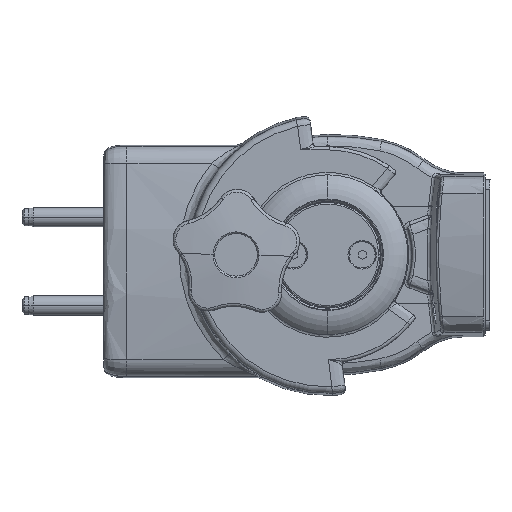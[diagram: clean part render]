
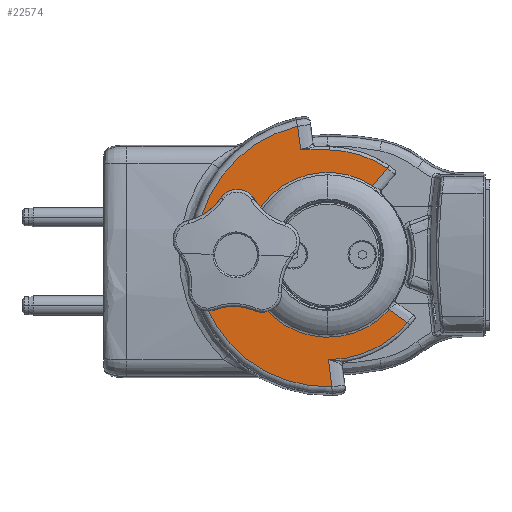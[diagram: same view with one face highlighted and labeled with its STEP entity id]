
A CAD part, left-side view. The second image highlights one B-rep face of the part: STEP entity #22574.
In plain terms, the highlighted planar face has unit normal (-1, 0, 0).
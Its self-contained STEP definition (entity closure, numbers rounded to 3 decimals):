
#155=CARTESIAN_POINT('',(-40.25,28.,0.));
#156=DIRECTION('',(1.,0.,0.));
#157=DIRECTION('',(0.,-1.,0.));
#158=AXIS2_PLACEMENT_3D('',#155,#156,#157);
#164=CARTESIAN_POINT('',(-40.25,28.,0.));
#165=DIRECTION('',(1.,0.,0.));
#166=DIRECTION('',(0.,1.,0.));
#167=AXIS2_PLACEMENT_3D('',#164,#165,#166);
#172=CARTESIAN_POINT('',(-40.25,23.442,7.185));
#173=CARTESIAN_POINT('',(-40.25,23.464,7.214));
#174=CARTESIAN_POINT('',(-40.25,23.508,7.275));
#175=CARTESIAN_POINT('',(-40.25,23.567,7.373));
#176=CARTESIAN_POINT('',(-40.25,23.624,7.485));
#177=CARTESIAN_POINT('',(-40.25,23.66,7.565));
#178=CARTESIAN_POINT('',(-40.25,23.677,7.608));
#183=CARTESIAN_POINT('',(-40.25,23.195,6.954));
#184=CARTESIAN_POINT('',(-40.25,23.219,6.97));
#185=CARTESIAN_POINT('',(-40.25,23.277,7.014));
#186=CARTESIAN_POINT('',(-40.25,23.359,7.088));
#187=CARTESIAN_POINT('',(-40.25,23.415,7.15));
#188=CARTESIAN_POINT('',(-40.25,23.442,7.185));
#193=CARTESIAN_POINT('',(-40.25,28.,0.));
#194=DIRECTION('',(-1.,0.,0.));
#195=DIRECTION('',(0.,-0.569,-0.823));
#196=AXIS2_PLACEMENT_3D('',#193,#194,#195);
#201=CARTESIAN_POINT('',(-40.25,23.441,-7.184));
#202=CARTESIAN_POINT('',(-40.25,23.402,-7.134));
#203=CARTESIAN_POINT('',(-40.25,23.319,-7.047));
#204=CARTESIAN_POINT('',(-40.25,23.234,-6.981));
#205=CARTESIAN_POINT('',(-40.25,23.192,-6.952));
#210=CARTESIAN_POINT('',(-40.25,23.677,-7.608));
#211=CARTESIAN_POINT('',(-40.25,23.662,-7.57));
#212=CARTESIAN_POINT('',(-40.25,23.63,-7.498));
#213=CARTESIAN_POINT('',(-40.25,23.58,-7.398));
#214=CARTESIAN_POINT('',(-40.25,23.521,-7.296));
#215=CARTESIAN_POINT('',(-40.25,23.47,-7.222));
#216=CARTESIAN_POINT('',(-40.25,23.441,-7.184));
#221=CARTESIAN_POINT('',(-40.25,0.,0.));
#222=DIRECTION('',(1.,0.,0.));
#223=DIRECTION('',(0.,-0.762,-0.648));
#224=AXIS2_PLACEMENT_3D('',#221,#222,#223);
#229=CARTESIAN_POINT('',(-40.25,0.,0.));
#230=DIRECTION('',(-1.,0.,0.));
#231=DIRECTION('',(0.,0.228,0.974));
#232=AXIS2_PLACEMENT_3D('',#229,#230,#231);
#237=DIRECTION('',(0.,-1.,-0.017));
#238=VECTOR('',#237,8.827);
#239=CARTESIAN_POINT('',(-40.25,8.267,32.149));
#240=LINE('',#239,#238);
#244=CARTESIAN_POINT('',(-40.25,0.,0.));
#245=DIRECTION('',(1.,0.,0.));
#246=DIRECTION('',(0.,-0.017,1.));
#247=AXIS2_PLACEMENT_3D('',#244,#245,#246);
#1159=CARTESIAN_POINT('',(-40.25,23.837,
-8.033));
#1169=CARTESIAN_POINT('',(-40.25,0.,0.));
#1170=DIRECTION('',(1.,0.,0.));
#1171=DIRECTION('',(0.,-0.745,-0.667));
#1172=AXIS2_PLACEMENT_3D('',#1169,#1170,#1171);
#1260=CARTESIAN_POINT('',(-40.25,-18.18,26.334));
#1312=CARTESIAN_POINT('',(-40.25,-13.755,21.06));
#1317=DIRECTION('',(0.,-0.643,0.766));
#1318=VECTOR('',#1317,6.884);
#1319=CARTESIAN_POINT('',(-40.25,-13.755,21.06));
#1320=LINE('',#1319,#1318);
#3165=CARTESIAN_POINT('',(-40.25,8.267,32.149));
#3170=DIRECTION('',(0.,0.131,0.991));
#3171=VECTOR('',#3170,7.132);
#3172=CARTESIAN_POINT('',(-40.25,8.267,32.149));
#3173=LINE('',#3172,#3171);
#3239=CARTESIAN_POINT('',(-40.25,-1.266,-40.265));
#3244=CARTESIAN_POINT('',(-40.25,9.198,39.22));
#3286=DIRECTION('',(0.,0.131,0.991));
#3287=VECTOR('',#3286,8.337);
#3288=CARTESIAN_POINT('',(-40.25,-1.266,-40.265));
#3289=LINE('',#3288,#3287);
#3729=CARTESIAN_POINT('',(-40.25,-0.178,-32.));
#3793=CARTESIAN_POINT('',(-40.25,-24.377,-20.731));
#3798=DIRECTION('',(0.,0.819,0.574));
#3799=VECTOR('',#3798,6.884);
#3800=CARTESIAN_POINT('',(-40.25,-24.377,-20.731));
#3801=LINE('',#3800,#3799);
#3805=CARTESIAN_POINT('',(-40.25,-18.737,-16.782));
#19631=CARTESIAN_POINT('',(-40.25,23.837,
8.033));
#19636=CARTESIAN_POINT('',(-40.25,0.,0.));
#19637=DIRECTION('',(1.,0.,0.));
#19638=DIRECTION('',(0.,0.948,0.319));
#19639=AXIS2_PLACEMENT_3D('',#19636,#19637,#19638);
#19679=CARTESIAN_POINT('',(-40.25,23.677,7.608));
#19680=CARTESIAN_POINT('',(-40.25,23.696,7.653));
#19681=CARTESIAN_POINT('',(-40.25,23.732,
7.745));
#19682=CARTESIAN_POINT('',(-40.25,23.783,
7.885));
#19683=CARTESIAN_POINT('',(-40.25,23.819,
7.983));
#19684=CARTESIAN_POINT('',(-40.25,23.837,
8.033));
#19809=CARTESIAN_POINT('',(-40.25,23.837,
-8.033));
#19810=CARTESIAN_POINT('',(-40.25,23.827,
-8.004));
#19811=CARTESIAN_POINT('',(-40.25,23.806,
-7.948));
#19812=CARTESIAN_POINT('',(-40.25,23.775,
-7.863));
#19813=CARTESIAN_POINT('',(-40.25,23.744,
-7.778));
#19814=CARTESIAN_POINT('',(-40.25,23.712,
-7.693));
#19815=CARTESIAN_POINT('',(-40.25,23.689,-7.636));
#19816=CARTESIAN_POINT('',(-40.25,23.677,-7.608));
#19932=VERTEX_POINT('',#3239);
#19939=VERTEX_POINT('',#3244);
#20227=CARTESIAN_POINT('',(-40.25,23.3,0.));
#20228=CARTESIAN_POINT('',(-40.25,32.7,0.));
#20229=VERTEX_POINT('',#20227);
#20230=VERTEX_POINT('',#20228);
#20307=CARTESIAN_POINT('',(-40.25,23.193,-6.953));
#20308=CARTESIAN_POINT('',(-40.25,23.201,6.958));
#20309=VERTEX_POINT('',#20307);
#20310=VERTEX_POINT('',#20308);
#22021=VERTEX_POINT('',#201);
#22022=VERTEX_POINT('',#188);
#22072=VERTEX_POINT('',#1312);
#22078=VERTEX_POINT('',#3805);
#22085=VERTEX_POINT('',#19631);
#22086=VERTEX_POINT('',#1159);
#22087=VERTEX_POINT('',#210);
#22088=VERTEX_POINT('',#178);
#22096=VERTEX_POINT('',#3793);
#22099=VERTEX_POINT('',#1260);
#22103=CARTESIAN_POINT('',(-40.25,-0.558,31.995));
#22104=VERTEX_POINT('',#22103);
#22148=VERTEX_POINT('',#3165);
#22149=VERTEX_POINT('',#3729);
#22527=CARTESIAN_POINT('',(-40.25,0.,0.));
#22528=DIRECTION('',(1.,0.,0.));
#22529=DIRECTION('',(0.,0.,-1.));
#22530=AXIS2_PLACEMENT_3D('',#22527,#22528,#22529);
#22531=PLANE('',#22530);
#22533=ORIENTED_EDGE('',*,*,#22532,.F.);
#22535=ORIENTED_EDGE('',*,*,#22534,.F.);
#22537=ORIENTED_EDGE('',*,*,#22536,.F.);
#22539=ORIENTED_EDGE('',*,*,#22538,.F.);
#22541=ORIENTED_EDGE('',*,*,#22540,.F.);
#22543=ORIENTED_EDGE('',*,*,#22542,.F.);
#22545=ORIENTED_EDGE('',*,*,#22544,.F.);
#22547=ORIENTED_EDGE('',*,*,#22546,.F.);
#22549=ORIENTED_EDGE('',*,*,#22548,.F.);
#22551=ORIENTED_EDGE('',*,*,#22550,.F.);
#22553=ORIENTED_EDGE('',*,*,#22552,.T.);
#22555=ORIENTED_EDGE('',*,*,#22554,.F.);
#22557=ORIENTED_EDGE('',*,*,#22556,.F.);
#22559=ORIENTED_EDGE('',*,*,#22558,.F.);
#22561=ORIENTED_EDGE('',*,*,#22560,.T.);
#22563=ORIENTED_EDGE('',*,*,#22562,.T.);
#22565=ORIENTED_EDGE('',*,*,#22564,.F.);
#22566=EDGE_LOOP('',(#22533,#22535,#22537,#22539,#22541,#22543,#22545,#22547,
#22549,#22551,#22553,#22555,#22557,#22559,#22561,#22563,#22565));
#22567=FACE_OUTER_BOUND('',#22566,.F.);
#22569=ORIENTED_EDGE('',*,*,#22568,.F.);
#22571=ORIENTED_EDGE('',*,*,#22570,.F.);
#22572=EDGE_LOOP('',(#22569,#22571));
#22573=FACE_BOUND('',#22572,.F.);
#159=CIRCLE('',#158,4.7);
#168=CIRCLE('',#167,4.7);
#179=B_SPLINE_CURVE_WITH_KNOTS('',3,(#172,#173,#174,#175,#176,#177,#178),
.UNSPECIFIED.,.F.,.F.,(4,1,1,1,4),(0.,0.25,0.5,0.75,1.),
.UNSPECIFIED.);
#189=B_SPLINE_CURVE_WITH_KNOTS('',3,(#183,#184,#185,#186,#187,#188),
.UNSPECIFIED.,.F.,.F.,(4,1,1,4),(0.,0.333,0.667,1.),
.UNSPECIFIED.);
#197=CIRCLE('',#196,8.453);
#206=B_SPLINE_CURVE_WITH_KNOTS('',3,(#201,#202,#203,#204,#205),.UNSPECIFIED.,
.F.,.F.,(4,1,4),(0.,0.5,1.),.UNSPECIFIED.);
#217=B_SPLINE_CURVE_WITH_KNOTS('',3,(#210,#211,#212,#213,#214,#215,#216),
.UNSPECIFIED.,.F.,.F.,(4,1,1,1,4),(0.,0.25,0.5,0.75,1.),
.UNSPECIFIED.);
#225=CIRCLE('',#224,32.);
#233=CIRCLE('',#232,40.285);
#248=CIRCLE('',#247,32.);
#1173=CIRCLE('',#1172,25.154);
#19640=CIRCLE('',#19639,25.154);
#19685=B_SPLINE_CURVE_WITH_KNOTS('',3,(#19679,#19680,#19681,#19682,#19683,
#19684),.UNSPECIFIED.,.F.,.F.,(4,1,1,4),(0.,0.333,
0.667,1.),.UNSPECIFIED.);
#19817=B_SPLINE_CURVE_WITH_KNOTS('',3,(#19809,#19810,#19811,#19812,#19813,
#19814,#19815,#19816),.UNSPECIFIED.,.F.,.F.,(4,1,1,1,1,4),(0.,0.2,0.4,
0.6,0.8,1.),.UNSPECIFIED.);
#22532=EDGE_CURVE('',#22085,#22072,#19640,.T.);
#22534=EDGE_CURVE('',#22088,#22085,#19685,.T.);
#22536=EDGE_CURVE('',#22022,#22088,#179,.T.);
#22538=EDGE_CURVE('',#20310,#22022,#189,.T.);
#22540=EDGE_CURVE('',#20309,#20310,#197,.T.);
#22542=EDGE_CURVE('',#22021,#20309,#206,.T.);
#22544=EDGE_CURVE('',#22087,#22021,#217,.T.);
#22546=EDGE_CURVE('',#22086,#22087,#19817,.T.);
#22548=EDGE_CURVE('',#22078,#22086,#1173,.T.);
#22550=EDGE_CURVE('',#22096,#22078,#3801,.T.);
#22552=EDGE_CURVE('',#22096,#22149,#225,.T.);
#22554=EDGE_CURVE('',#19932,#22149,#3289,.T.);
#22556=EDGE_CURVE('',#19939,#19932,#233,.T.);
#22558=EDGE_CURVE('',#22148,#19939,#3173,.T.);
#22560=EDGE_CURVE('',#22148,#22104,#240,.T.);
#22562=EDGE_CURVE('',#22104,#22099,#248,.T.);
#22564=EDGE_CURVE('',#22072,#22099,#1320,.T.);
#22568=EDGE_CURVE('',#20229,#20230,#159,.T.);
#22570=EDGE_CURVE('',#20230,#20229,#168,.T.);
#22574=ADVANCED_FACE('',(#22567,#22573),#22531,.F.);
